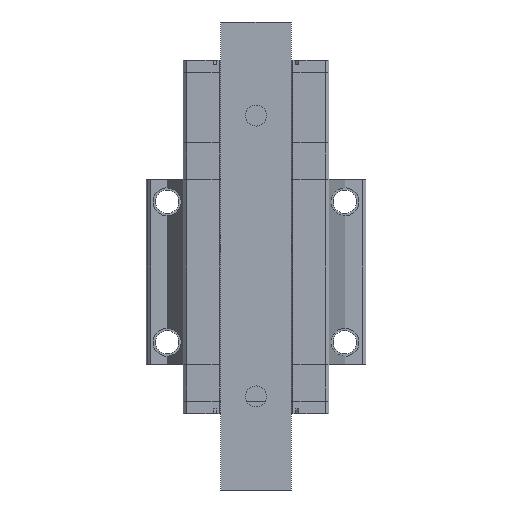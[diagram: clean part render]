
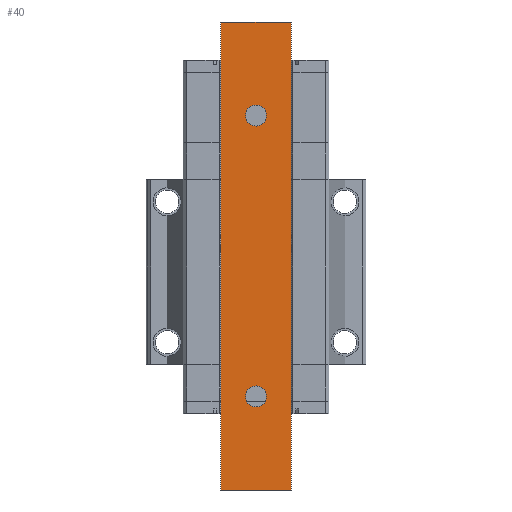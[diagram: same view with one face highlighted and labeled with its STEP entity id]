
A CAD part, front view. The second image highlights one B-rep face of the part: STEP entity #40.
In plain terms, the highlighted planar face has unit normal (0, -1, 0).
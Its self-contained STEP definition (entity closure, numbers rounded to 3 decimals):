
#40 = ADVANCED_FACE ( 'NONE', ( #14000, #23800, #26432 ), #8533, .T. ) ;
#549 = EDGE_LOOP ( 'NONE', ( #4758, #17213 ) ) ;
#769 = ORIENTED_EDGE ( 'NONE', *, *, #12982, .T. ) ;
#2211 = VECTOR ( 'NONE', #16381, 1000. ) ;
#3117 = CARTESIAN_POINT ( 'NONE',  ( 7.5, -4.4, -50. ) ) ;
#3653 = EDGE_CURVE ( 'NONE', #5866, #12857, #10781, .T. ) ;
#3984 = CARTESIAN_POINT ( 'NONE',  ( -7.5, -4.4, -50. ) ) ;
#4684 = CIRCLE ( 'NONE', #13091, 2.25 ) ;
#4758 = ORIENTED_EDGE ( 'NONE', *, *, #8290, .T. ) ;
#4849 = AXIS2_PLACEMENT_3D ( 'NONE', #9874, #19255, #11978 ) ;
#5125 = DIRECTION ( 'NONE',  ( 0., 0., 1. ) ) ;
#5486 = EDGE_CURVE ( 'NONE', #16561, #26096, #19277, .T. ) ;
#5643 = VERTEX_POINT ( 'NONE', #14571 ) ;
#5674 = EDGE_CURVE ( 'NONE', #29551, #14579, #29023, .T. ) ;
#5717 = CARTESIAN_POINT ( 'NONE',  ( 0., -4.4, 30. ) ) ;
#5866 = VERTEX_POINT ( 'NONE', #9036 ) ;
#6144 = DIRECTION ( 'NONE',  ( 0., 0., 1. ) ) ;
#6259 = DIRECTION ( 'NONE',  ( 0., 0., -1. ) ) ;
#6499 = CARTESIAN_POINT ( 'NONE',  ( -7.5, -4.4, 50. ) ) ;
#6574 = ORIENTED_EDGE ( 'NONE', *, *, #15048, .T. ) ;
#7119 = CIRCLE ( 'NONE', #11355, 2.25 ) ;
#7325 = CARTESIAN_POINT ( 'NONE',  ( -7.5, -4.4, -50. ) ) ;
#8135 = EDGE_LOOP ( 'NONE', ( #6574, #769 ) ) ;
#8290 = EDGE_CURVE ( 'NONE', #14579, #29551, #4684, .T. ) ;
#8533 = PLANE ( 'NONE',  #28527 ) ;
#8892 = LINE ( 'NONE', #3117, #21734 ) ;
#9010 = ORIENTED_EDGE ( 'NONE', *, *, #30636, .F. ) ;
#9036 = CARTESIAN_POINT ( 'NONE',  ( -7.5, -4.4, 50. ) ) ;
#9490 = DIRECTION ( 'NONE',  ( 1., 0., 0. ) ) ;
#9874 = CARTESIAN_POINT ( 'NONE',  ( 0., -4.4, 30. ) ) ;
#10781 = LINE ( 'NONE', #6499, #2211 ) ;
#10943 = DIRECTION ( 'NONE',  ( 0., 1., 0. ) ) ;
#10945 = DIRECTION ( 'NONE',  ( 0., -1., 0. ) ) ;
#11355 = AXIS2_PLACEMENT_3D ( 'NONE', #5717, #10943, #6144 ) ;
#11978 = DIRECTION ( 'NONE',  ( 0., 0., 1. ) ) ;
#12409 = CARTESIAN_POINT ( 'NONE',  ( -7.5, -4.4, -50. ) ) ;
#12786 = CARTESIAN_POINT ( 'NONE',  ( 7.5, -4.4, -50. ) ) ;
#12857 = VERTEX_POINT ( 'NONE', #21214 ) ;
#12982 = EDGE_CURVE ( 'NONE', #5643, #30005, #7119, .T. ) ;
#13091 = AXIS2_PLACEMENT_3D ( 'NONE', #15174, #22237, #20204 ) ;
#13624 = VECTOR ( 'NONE', #21841, 1000. ) ;
#14000 = FACE_BOUND ( 'NONE', #549, .T. ) ;
#14571 = CARTESIAN_POINT ( 'NONE',  ( 0., -4.4, 27.75 ) ) ;
#14579 = VERTEX_POINT ( 'NONE', #20365 ) ;
#15048 = EDGE_CURVE ( 'NONE', #30005, #5643, #29303, .T. ) ;
#15174 = CARTESIAN_POINT ( 'NONE',  ( 0., -4.4, -30. ) ) ;
#15723 = CARTESIAN_POINT ( 'NONE',  ( -7.5, -4.4, -50. ) ) ;
#15829 = EDGE_CURVE ( 'NONE', #26096, #12857, #8892, .T. ) ;
#16272 = LINE ( 'NONE', #7325, #13624 ) ;
#16381 = DIRECTION ( 'NONE',  ( 1., 0., 0. ) ) ;
#16561 = VERTEX_POINT ( 'NONE', #12409 ) ;
#17213 = ORIENTED_EDGE ( 'NONE', *, *, #5674, .T. ) ;
#19255 = DIRECTION ( 'NONE',  ( 0., 1., 0. ) ) ;
#19277 = LINE ( 'NONE', #3984, #27508 ) ;
#19488 = DIRECTION ( 'NONE',  ( 0., 1., 0. ) ) ;
#19919 = CARTESIAN_POINT ( 'NONE',  ( 0., -4.4, -32.25 ) ) ;
#20204 = DIRECTION ( 'NONE',  ( 0., 0., 1. ) ) ;
#20365 = CARTESIAN_POINT ( 'NONE',  ( 0., -4.4, -27.75 ) ) ;
#20777 = CARTESIAN_POINT ( 'NONE',  ( 0., -4.4, 32.25 ) ) ;
#21214 = CARTESIAN_POINT ( 'NONE',  ( 7.5, -4.4, 50. ) ) ;
#21687 = AXIS2_PLACEMENT_3D ( 'NONE', #29068, #19488, #5125 ) ;
#21734 = VECTOR ( 'NONE', #21934, 1000. ) ;
#21804 = ORIENTED_EDGE ( 'NONE', *, *, #5486, .T. ) ;
#21841 = DIRECTION ( 'NONE',  ( 0., 0., 1. ) ) ;
#21934 = DIRECTION ( 'NONE',  ( 0., 0., 1. ) ) ;
#22149 = ORIENTED_EDGE ( 'NONE', *, *, #15829, .T. ) ;
#22237 = DIRECTION ( 'NONE',  ( 0., 1., 0. ) ) ;
#23800 = FACE_BOUND ( 'NONE', #8135, .T. ) ;
#26096 = VERTEX_POINT ( 'NONE', #12786 ) ;
#26200 = ORIENTED_EDGE ( 'NONE', *, *, #3653, .F. ) ;
#26432 = FACE_OUTER_BOUND ( 'NONE', #27216, .T. ) ;
#27216 = EDGE_LOOP ( 'NONE', ( #22149, #26200, #9010, #21804 ) ) ;
#27508 = VECTOR ( 'NONE', #9490, 1000. ) ;
#28527 = AXIS2_PLACEMENT_3D ( 'NONE', #15723, #10945, #6259 ) ;
#29023 = CIRCLE ( 'NONE', #21687, 2.25 ) ;
#29068 = CARTESIAN_POINT ( 'NONE',  ( 0., -4.4, -30. ) ) ;
#29303 = CIRCLE ( 'NONE', #4849, 2.25 ) ;
#29551 = VERTEX_POINT ( 'NONE', #19919 ) ;
#30005 = VERTEX_POINT ( 'NONE', #20777 ) ;
#30636 = EDGE_CURVE ( 'NONE', #16561, #5866, #16272, .T. ) ;
